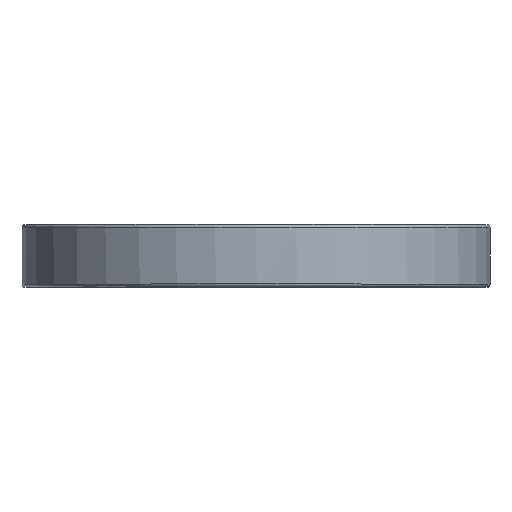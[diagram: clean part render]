
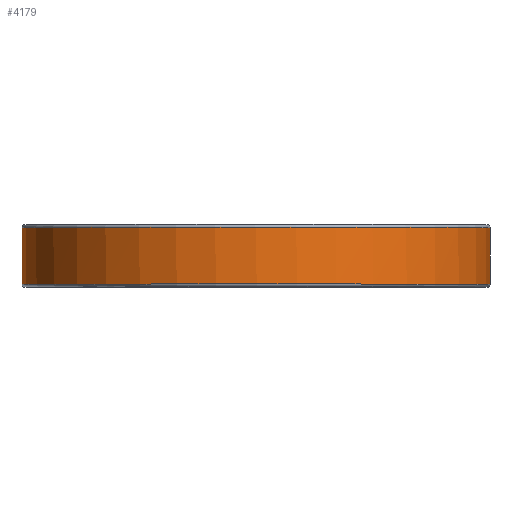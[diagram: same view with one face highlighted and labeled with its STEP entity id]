
A CAD part, top view. The second image highlights one B-rep face of the part: STEP entity #4179.
In plain terms, the highlighted cylindrical face has radius 82.5 mm (diameter 165 mm), a partial arc.
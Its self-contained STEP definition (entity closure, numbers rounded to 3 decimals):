
#2111=EDGE_CURVE('',#2519,#3341,#5049,.T.);
#2189=EDGE_CURVE('',#2545,#2519,#5138,.T.);
#2489=EDGE_CURVE('',#4145,#2905,#5482,.T.);
#2519=VERTEX_POINT('',#5514);
#2545=VERTEX_POINT('',#5543);
#2659=EDGE_CURVE('',#3341,#2809,#5668,.T.);
#2809=VERTEX_POINT('',#5842);
#2905=VERTEX_POINT('',#5950);
#3311=EDGE_CURVE('',#4145,#2809,#6398,.T.);
#3341=VERTEX_POINT('',#6433);
#4047=EDGE_CURVE('',#2905,#2545,#7238,.T.);
#4145=VERTEX_POINT('',#7347);
#4179=ADVANCED_FACE('',(#7384),#7385,.T.);
#5049=CIRCLE('',#8474,82.5);
#5138=LINE('',#8585,#8586);
#5482=CIRCLE('',#9007,82.5);
#5514=CARTESIAN_POINT('',(-82.5,21.0,0.));
#5543=CARTESIAN_POINT('',(-82.5,1.0,0.));
#5668=CIRCLE('',#9242,82.5);
#5842=CARTESIAN_POINT('',(82.5,21.0,0.));
#5950=CARTESIAN_POINT('',(-82.498,1.0,0.512));
#6398=LINE('',#10186,#10187);
#6433=CARTESIAN_POINT('',(82.499,21.0,0.36));
#7238=CIRCLE('',#11259,82.5);
#7347=CARTESIAN_POINT('',(82.5,1.0,0.));
#7384=FACE_OUTER_BOUND('',#11448,.T.);
#7385=CYLINDRICAL_SURFACE('',#11449,82.5);
#8474=AXIS2_PLACEMENT_3D('',#12543,#12544,#12545);
#8585=CARTESIAN_POINT('',(-82.5,1.0,0.));
#8586=VECTOR('',#12657,20.0);
#9007=AXIS2_PLACEMENT_3D('',#13128,#13129,#13130);
#9242=AXIS2_PLACEMENT_3D('',#13346,#13347,#13348);
#10186=CARTESIAN_POINT('',(82.5,1.0,0.));
#10187=VECTOR('',#14285,20.0);
#11259=AXIS2_PLACEMENT_3D('',#15405,#15406,#15407);
#11448=EDGE_LOOP('',(#15590,#15591,#15592,#15593,#15594,#15595));
#11449=AXIS2_PLACEMENT_3D('',#15596,#15597,#15598);
#12543=CARTESIAN_POINT('',(0.0,21.0,0.0));
#12544=DIRECTION('',(0.0,1.0,0.0));
#12545=DIRECTION('',(-1.0,0.0,0.0));
#12657=DIRECTION('',(0.0,1.0,0.));
#13128=CARTESIAN_POINT('',(0.0,1.0,0.0));
#13129=DIRECTION('',(0.0,-1.0,0.0));
#13130=DIRECTION('',(1.0,0.0,0.0));
#13346=CARTESIAN_POINT('',(0.0,21.0,0.0));
#13347=DIRECTION('',(0.0,1.0,0.0));
#13348=DIRECTION('',(-1.0,0.0,0.0));
#14285=DIRECTION('',(0.0,1.0,0.));
#15405=CARTESIAN_POINT('',(0.0,1.0,0.0));
#15406=DIRECTION('',(0.0,-1.0,0.0));
#15407=DIRECTION('',(1.0,0.0,0.0));
#15590=ORIENTED_EDGE('',*,*,#2189,.F.);
#15591=ORIENTED_EDGE('',*,*,#4047,.F.);
#15592=ORIENTED_EDGE('',*,*,#2489,.F.);
#15593=ORIENTED_EDGE('',*,*,#3311,.T.);
#15594=ORIENTED_EDGE('',*,*,#2659,.F.);
#15595=ORIENTED_EDGE('',*,*,#2111,.F.);
#15596=CARTESIAN_POINT('',(0.0,0.0,0.0));
#15597=DIRECTION('',(-0.0,1.0,-0.0));
#15598=DIRECTION('',(1.0,0.0,0.0));
